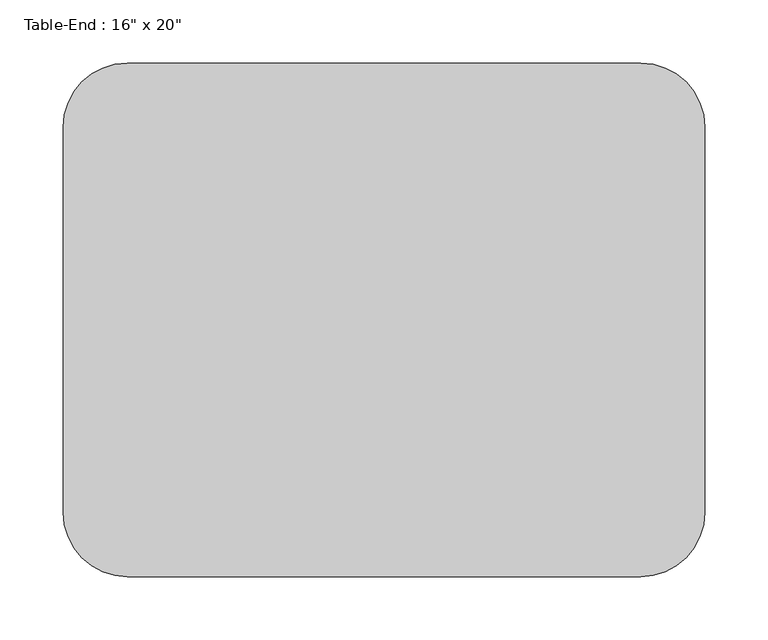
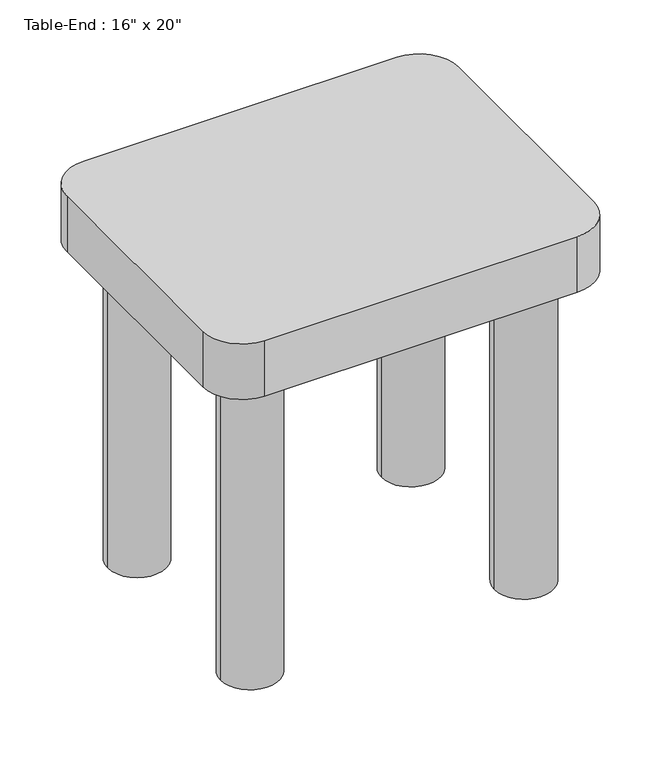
"""IFC4 building model written with IfcOpenShell, lengths in millimetres: furniture geometry."""

from ifc_helpers import new_model, si_unit, point, frame, frame_2d, origin, origin_with_axes, place, context, project, spatial, polyline, circle_curve, trimmed, segment, composite_curve, outline, extrude, source, transform, mapped, element, save


def furniture_ab561517(model_context):
    return source(origin(), model_context, "Body", "SweptSolid", [
        extrude(outline(composite_curve([segment(polyline([(460.9336303, -50.8), (54.5336303, -50.8)]), True, "CONTINUOUS"), segment(trimmed(circle_curve(frame_2d((54.5336303, 0.0)), 50.8), [point((54.5336303, -50.8))], [point((3.7336303, 0.0))], False, "CARTESIAN"), True, "CONTINUOUS"), segment(polyline([(3.7336303, 0.0), (3.7336303, 304.8)]), True, "CONTINUOUS"), segment(trimmed(circle_curve(frame_2d((54.5336303, 304.8)), 50.8), [point((3.7336303, 304.8))], [point((54.5336303, 355.6))], False, "CARTESIAN"), True, "CONTINUOUS"), segment(polyline([(54.5336303, 355.6), (460.9336303, 355.6)]), True, "CONTINUOUS"), segment(trimmed(circle_curve(frame_2d((460.9336303, 304.8)), 50.8), [point((460.9336303, 355.6))], [point((511.7336303, 304.8))], False, "CARTESIAN"), True, "CONTINUOUS"), segment(polyline([(511.7336303, 304.8), (511.7336303, 0.0)]), True, "CONTINUOUS"), segment(trimmed(circle_curve(frame_2d((460.9336303, 0.0)), 50.8), [point((511.7336303, 0.0))], [point((460.9336303, -50.8))], False, "CARTESIAN"), True, "CONTINUOUS")], self_intersect=False)), frame((0.0, 0.0, 431.8), z_axis=(0.0, 0.0, 1.0), x_axis=(1.0, 0.0, 0.0)), (0.0, 0.0, 1.0), 76.2),
        extrude(outline(composite_curve([segment(trimmed(circle_curve(frame_2d((79.9336303, 279.4)), 38.1), [point((41.8336303, 279.4))], [point((118.0336303, 279.4))], False, "CARTESIAN"), True, "CONTINUOUS"), segment(trimmed(circle_curve(frame_2d((79.9336303, 279.4)), 38.1), [point((118.0336303, 279.4))], [point((41.8336303, 279.4))], False, "CARTESIAN"), True, "CONTINUOUS")], self_intersect=False)), origin_with_axes(), (0.0, 0.0, 1.0), 431.8),
        extrude(outline(composite_curve([segment(trimmed(circle_curve(frame_2d((79.9336303, 25.4)), 38.1), [point((41.8336303, 25.4))], [point((118.0336303, 25.4))], False, "CARTESIAN"), True, "CONTINUOUS"), segment(trimmed(circle_curve(frame_2d((79.9336303, 25.4)), 38.1), [point((118.0336303, 25.4))], [point((41.8336303, 25.4))], False, "CARTESIAN"), True, "CONTINUOUS")], self_intersect=False)), origin_with_axes(), (0.0, 0.0, 1.0), 431.8),
        extrude(outline(composite_curve([segment(trimmed(circle_curve(frame_2d((435.5336303, 25.4)), 38.1), [point((397.4336303, 25.4))], [point((473.6336303, 25.4))], False, "CARTESIAN"), True, "CONTINUOUS"), segment(trimmed(circle_curve(frame_2d((435.5336303, 25.4)), 38.1), [point((473.6336303, 25.4))], [point((397.4336303, 25.4))], False, "CARTESIAN"), True, "CONTINUOUS")], self_intersect=False)), origin_with_axes(), (0.0, 0.0, 1.0), 431.8),
        extrude(outline(composite_curve([segment(trimmed(circle_curve(frame_2d((435.5336303, 279.4)), 38.1), [point((397.4336303, 279.4))], [point((473.6336303, 279.4))], False, "CARTESIAN"), True, "CONTINUOUS"), segment(trimmed(circle_curve(frame_2d((435.5336303, 279.4)), 38.1), [point((473.6336303, 279.4))], [point((397.4336303, 279.4))], False, "CARTESIAN"), True, "CONTINUOUS")], self_intersect=False)), origin_with_axes(), (0.0, 0.0, 1.0), 431.8),
    ])


if __name__ == "__main__":
    model = new_model("IFC4")
    model_context = context("Model", 3, world=origin())
    ifc_project = project(units=[si_unit("LENGTHUNIT", "METRE", prefix="MILLI")], contexts=[model_context])
    site = spatial("IfcSite", under=ifc_project)
    building = spatial("IfcBuilding", under=site)
    placement = place(None, origin())
    furniture_shape = furniture_ab561517(model_context)
    element("IfcFurniture", 1, ObjectType="Table-End : 16\" x 20\"", at=placement, inside=building, context=model_context, shape_type="MappedRepresentation", body=[
        mapped(furniture_shape, transform((0.0, 0.0, 0.0), x_axis=(1.0, 0.0, 0.0), y_axis=(0.0, 1.0, 0.0), z_axis=(0.0, 0.0, 1.0))),
    ])
    save(model, "model.ifc")
